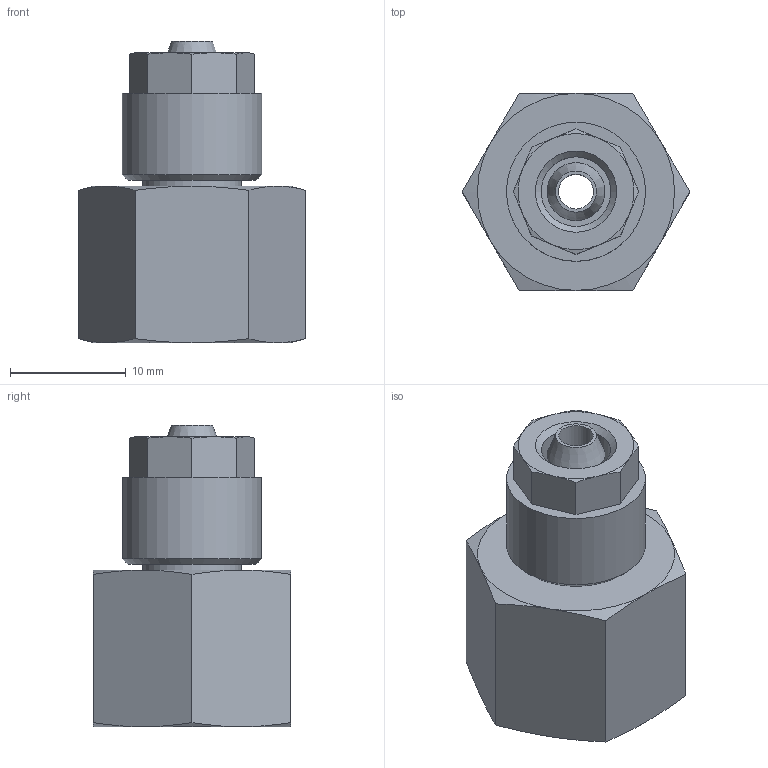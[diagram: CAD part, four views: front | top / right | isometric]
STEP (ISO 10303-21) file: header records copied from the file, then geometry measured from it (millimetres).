
FILE_DESCRIPTION(/* description */ (''),/* implementation_level */ '2;1');
FILE_NAME(/* name */ '10303_302_6-G14_29.05.17',/* time_stamp */ '2017-05-29T09:27:25+02:00',/* author */ (''),/* organization */ (''),/* preprocessor_version */ 'ST-DEVELOPER v16.5',/* originating_system */ 'HiCAD 2016 2102.1 Build 498',/* authorisation */ '');
FILE_SCHEMA (('AUTOMOTIVE_DESIGN { 1 0 10303 214 1 1 1 1 }'));
Length unit declared in the file: millimetre
Products named in the file (3): Root; ELEMENTO DI ROTAZIONE_0; 17005
Assembly tree (2 placements, depth 2):
  Root
    ELEMENTO DI ROTAZIONE_0
    17005
Bounding box: 19.63 x 17 x 26 mm (x, y, z)
Volume: 3287.1 mm3; surface area: 2882.1 mm2
Topology: 2 solids, 2 shells, 61 faces, 131 edges, 79 vertices
Faces by surface type: cone 29, plane 23, cylinder 8, torus 1
Full cylindrical faces by diameter (mm): 3 x1, 4.5 x1, 6 x1, 8.5 x1, 8.773 x1, 10 x1, 11.445 x1, 12 x1
Entity records: 2664 total; most frequent: DIRECTION 322, CARTESIAN_POINT 245, PRESENTATION_STYLE_ASSIGNMENT 216, COLOUR_RGB 216, DRAUGHTING_PRE_DEFINED_CURVE_FONT 214, CURVE_STYLE 214, OVER_RIDING_STYLED_ITEM 214, ORIENTED_EDGE 214
